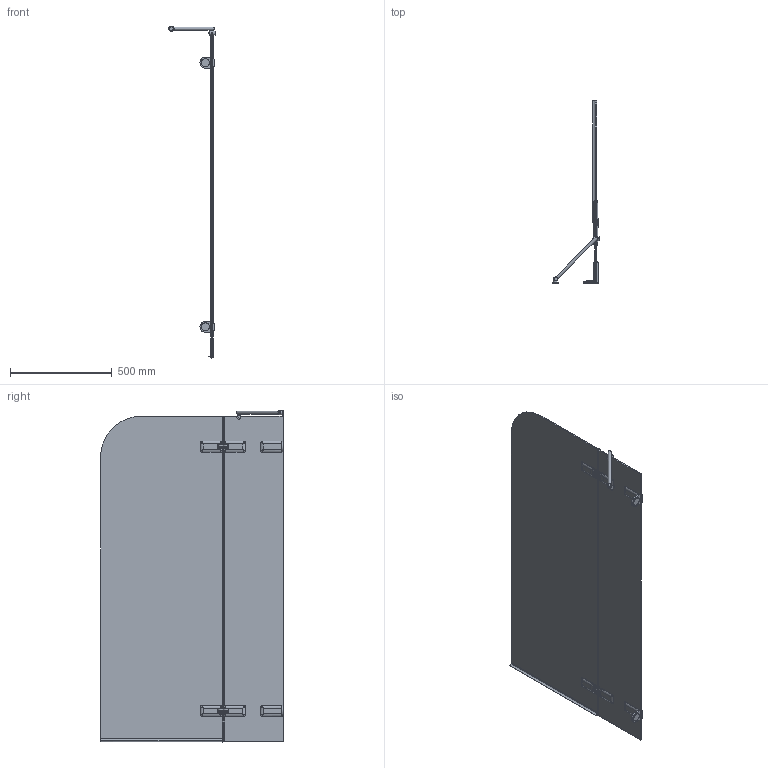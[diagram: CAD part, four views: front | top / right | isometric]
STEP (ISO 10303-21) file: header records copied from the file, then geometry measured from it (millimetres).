
FILE_DESCRIPTION(/* description */ (''),/* implementation_level */ '2;1');
FILE_NAME(/* name */ 'E:\Работа\Сергей\Душевые кабинки\! Работа\!!!!!!!!!!!!\TREND PEARL GV-862A\TREND PEARL GV-862A левая модель\TREND PEARL GV-862A ЛЕВАЯ-3D.stp',/* time_stamp */ '2018-03-23T20:27:51+03:00',/* author */ ('PC'),/* organization */ (''),/* preprocessor_version */ 'ST-DEVELOPER v15.2',/* originating_system */ 'Autodesk Inventor 2014',/* authorisation */ '');
FILE_SCHEMA (('AUTOMOTIVE_DESIGN { 1 0 10303 214 3 1 1 }'));
Length unit declared in the file: millimetre
Products named in the file (1): TREND PEARL GV-862A ЛЕВАЯ-3D
Bounding box: 228.4 x 900 x 1633.89 mm (x, y, z)
Volume: 9163673.5 mm3; surface area: 3076968.6 mm2
Topology: 5 solids, 5 shells, 847 faces, 2435 edges, 1557 vertices
Faces by surface type: plane 496, cylinder 282, bspline 50, cone 10, torus 7, sphere 2
Full cylindrical faces by diameter (mm): 10 x4, 15 x1, 20 x2, 26 x1, 40 x2
Entity records: 30555 total; most frequent: CARTESIAN_POINT 7603, ORIENTED_EDGE 4746, DIRECTION 4457, EDGE_CURVE 2369, LINE 1635, VECTOR 1635, VERTEX_POINT 1548, AXIS2_PLACEMENT_3D 1411
